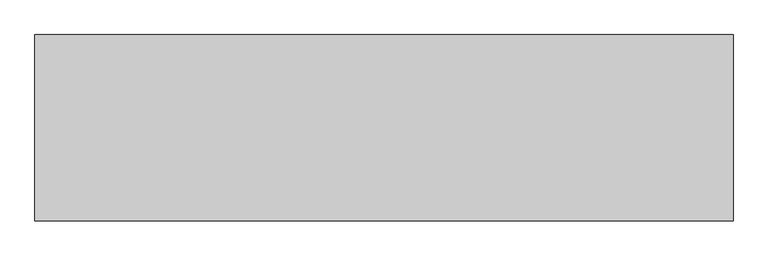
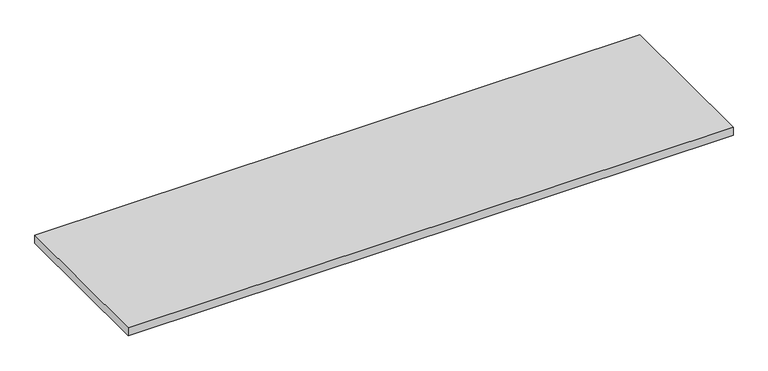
"""IFC4 building model written with IfcOpenShell, lengths in millimetres: proxy geometry, Harmer Logo : Harmer Logo."""

from ifc_helpers import new_model, si_unit, origin, origin_with_axes, place, context, project, spatial, polyline, outline, extrude, source, transform, mapped, element, save


def generic_models_ec3af60e(model_context):
    return source(origin(), model_context, "Body", "SweptSolid", [
        extrude(outline(polyline([(-4419.6397915, 3365.2444886), (-4419.6397915, 2885.2444886), (-6219.6397915, 2885.2444886), (-6219.6397915, 3365.2444886), (-4419.6397915, 3365.2444886)])), origin_with_axes(), (0.0, 0.0, 1.0), 25.0),
    ])


if __name__ == "__main__":
    model = new_model("IFC4")
    model_context = context("Model", 3, world=origin())
    ifc_project = project(units=[si_unit("LENGTHUNIT", "METRE", prefix="MILLI")], contexts=[model_context])
    site = spatial("IfcSite", under=ifc_project)
    building = spatial("IfcBuilding", under=site)
    placement = place(None, origin())
    generic_models_shape = generic_models_ec3af60e(model_context)
    element("IfcBuildingElementProxy", 1, Name="Harmer Logo : Harmer Logo", ObjectType="Harmer Logo : Harmer Logo", at=placement, inside=building, context=model_context, shape_type="MappedRepresentation", body=[
        mapped(generic_models_shape, transform((0.0, 0.0, 0.0), x_axis=(1.0, 0.0, 0.0), y_axis=(0.0, 1.0, 0.0), z_axis=(0.0, 0.0, 1.0))),
    ])
    save(model, "model.ifc")
